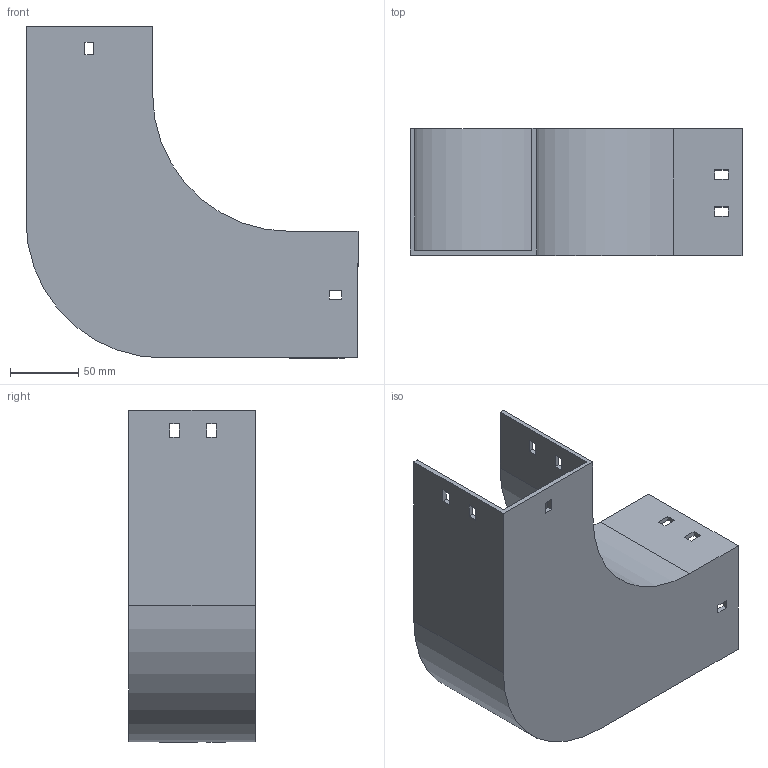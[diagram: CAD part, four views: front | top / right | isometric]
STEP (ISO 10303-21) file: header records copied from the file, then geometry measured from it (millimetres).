
FILE_DESCRIPTION (( 'STEP AP214' ), '1' );
FILE_NAME ('10B1I092.step', '2025-02-21T09:41:55', ( '' ), ( '' ), 'SwSTEP 2.0', 'SolidWorks 2023', '' );
FILE_SCHEMA (( 'AUTOMOTIVE_DESIGN' ));
Length unit declared in the file: millimetre
Products named in the file (1): 10B1I092
Bounding box: 242.5 x 92.5 x 242.5 mm (x, y, z)
Volume: 342490.5 mm3; surface area: 201218.4 mm2
Topology: 1 solids, 1 shells, 58 faces, 168 edges, 112 vertices
Faces by surface type: plane 54, cylinder 4
Entity records: 1943 total; most frequent: CARTESIAN_POINT 339, ORIENTED_EDGE 336, DIRECTION 294, EDGE_CURVE 168, LINE 160, VECTOR 160, VERTEX_POINT 112, EDGE_LOOP 78
